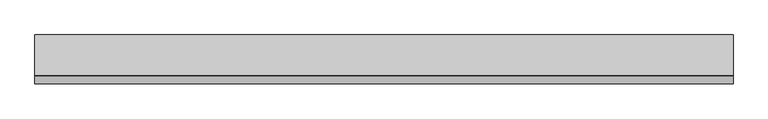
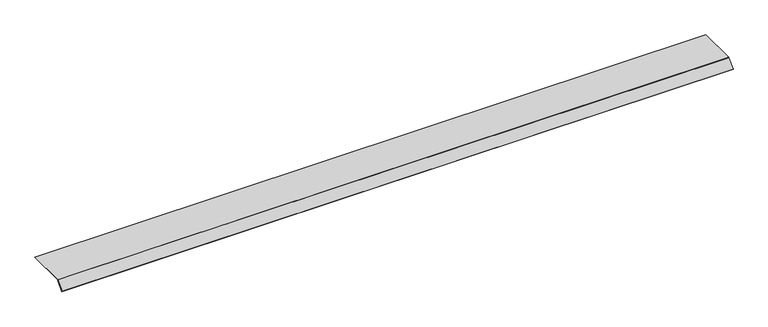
"""IFC4 building model written with IfcOpenShell, lengths in millimetres: proxy geometry, Electrical_Installation_Hager_Blank-Cover-400mm-Double-Sided-Extended-100-Height-70mm : Electrical_Installation_Hager_Blank-Cover-400mm-Double-Sided-Extended-100-Height-70mm."""

from ifc_helpers import new_model, si_unit, point, frame, frame_2d, origin, place, context, project, spatial, polyline, circle_curve, trimmed, segment, composite_curve, outline, extrude, source, transform, mapped, element, save


def electrical_fixtures_8f7f6b38(model_context):
    return source(origin(), model_context, "Body", "SweptSolid", [
        extrude(outline(composite_curve([segment(polyline([(226.39204, 40.5), (226.39204, 37.5), (-124.8229541, 37.5)]), True, "CONTINUOUS"), segment(trimmed(circle_curve(frame_2d((-124.8229541, 36.0725733)), 1.4274267), [point((-124.8229541, 37.5))], [point((-125.8322972, 37.0819164))], True, "CARTESIAN"), True, "CONTINUOUS"), segment(polyline([(-125.8322972, 37.0819164), (-193.6627596, -30.7485461), (-195.78408, -28.6272257), (-127.8206472, 39.336207)]), True, "CONTINUOUS"), segment(trimmed(circle_curve(frame_2d((-125.0110025, 36.5265623)), 3.9734377), [point((-127.8206472, 39.336207))], [point((-125.0110025, 40.5))], False, "CARTESIAN"), True, "CONTINUOUS"), segment(polyline([(-125.0110025, 40.5), (226.39204, 40.5)]), True, "CONTINUOUS")], self_intersect=False)), frame((0.0, 0.0, 0.0), z_axis=(1.0, 0.0, 0.0), x_axis=(0.0, 1.0, 0.0)), (0.0, 0.0, 1.0), 6011.6956759),
    ])


if __name__ == "__main__":
    model = new_model("IFC4")
    model_context = context("Model", 3, world=origin())
    ifc_project = project(units=[si_unit("LENGTHUNIT", "METRE", prefix="MILLI")], contexts=[model_context])
    site = spatial("IfcSite", under=ifc_project)
    building = spatial("IfcBuilding", under=site)
    placement = place(None, origin())
    electrical_fixtures_shape = electrical_fixtures_8f7f6b38(model_context)
    element("IfcBuildingElementProxy", 1, Name="Electrical_Installation_Hager_Blank-Cover-400mm-Double-Sided-Extended-100-Height-70mm : Electrical_Installation_Hager_Blank-Cover-400mm-Double-Sided-Extended-100-Height-70mm", ObjectType="Electrical_Installation_Hager_Blank-Cover-400mm-Double-Sided-Extended-100-Height-70mm : Electrical_Installation_Hager_Blank-Cover-400mm-Double-Sided-Extended-100-Height-70mm", at=placement, inside=building, context=model_context, shape_type="MappedRepresentation", body=[
        mapped(electrical_fixtures_shape, transform((0.0, 0.0, 0.0), x_axis=(1.0, 0.0, 0.0), y_axis=(0.0, 1.0, 0.0), z_axis=(0.0, 0.0, 1.0))),
    ])
    save(model, "model.ifc")
